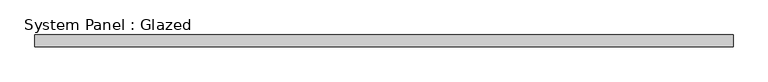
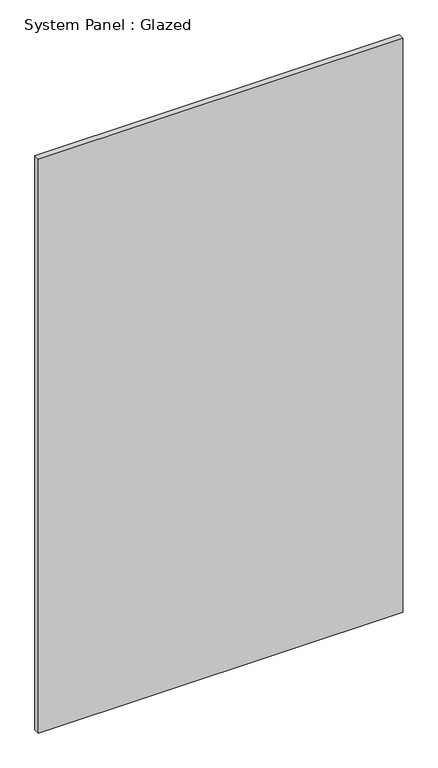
"""IFC4 building model written with IfcOpenShell, lengths in millimetres: plate geometry, System Panel : Glazed."""

import ifcopenshell
import ifcopenshell.guid

model = None  # the IFC model being written
_history = None  # IfcOwnerHistory: only IFC2X3 demands one
_inside = {}  # id of a spatial element -> (the spatial element, [elements in it])
_under = {}  # id of a project, library or spatial element -> (it, [spatial elements below it])
_declared = {}  # id of a project -> (the project, [libraries it declares])
_typed = {}  # id of a type object -> (the type object, [elements of that type])
_made_of = {}  # id of a material, layer set ... -> (it, [elements and type objects made of it])


def new_model(schema):
    """Start an empty IFC model of exactly this schema.

    Asked for "IFC4X3", IfcOpenShell would pick the latest addendum, in which some entities
    have other attributes; the version numbers below select the first issue.
    IFC2X3 requires an IfcOwnerHistory on every rooted entity: one is made here for all.
    """
    global model, _history
    if schema == "IFC4X3":
        model = ifcopenshell.file(schema_version=(4, 3, 0, 0))
    else:
        model = ifcopenshell.file(schema=schema)
    _inside.clear()
    _under.clear()
    _declared.clear()
    _typed.clear()
    _made_of.clear()
    _history = None
    if model.schema == "IFC2X3":
        org = make("IfcOrganization", Name="unknown")
        user = make(
            "IfcPersonAndOrganization",
            ThePerson=make("IfcPerson", FamilyName="unknown"),
            TheOrganization=org,
        )
        app = make(
            "IfcApplication",
            ApplicationDeveloper=org,
            Version="unknown",
            ApplicationFullName="unknown",
            ApplicationIdentifier="unknown",
        )
        _history = make(
            "IfcOwnerHistory",
            OwningUser=user,
            OwningApplication=app,
            ChangeAction="ADDED",
            CreationDate=0,
        )
    return model


def make(cls, **values):
    """One entity of the class cls with the attributes given. An attribute that is None is left unset."""
    return model.create_entity(
        cls, **{name: value for name, value in values.items() if value is not None}
    )


def rooted(cls, **values):
    """An entity with a GlobalId (a new one), such as an element, a storey or a relation."""
    return make(cls, GlobalId=ifcopenshell.guid.new(), OwnerHistory=_history, **values)


def si_unit(unit_type, name, prefix=None):
    """IfcSIUnit, for example si_unit("LENGTHUNIT", "METRE", prefix="MILLI")."""
    return make("IfcSIUnit", UnitType=unit_type, Prefix=prefix, Name=name)


def assignment(units):
    """IfcUnitAssignment: the units of a project."""
    return None if units is None else make("IfcUnitAssignment", Units=units)


def point(xyz):
    """IfcCartesianPoint."""
    return None if xyz is None else make("IfcCartesianPoint", Coordinates=xyz)


def direction(xyz):
    """IfcDirection."""
    return None if xyz is None else make("IfcDirection", DirectionRatios=xyz)


def frame(location, z_axis=None, x_axis=None):
    """IfcAxis2Placement3D, a coordinate frame: its origin and axes. An axis left out is left unset."""
    return make(
        "IfcAxis2Placement3D",
        Location=point(location),
        Axis=direction(z_axis),
        RefDirection=direction(x_axis),
    )


def origin():
    """The frame at (0, 0, 0) with its axes left unset."""
    return frame((0.0, 0.0, 0.0))


def origin_with_axes():
    """The frame at (0, 0, 0) with the z axis (0, 0, 1) and the x axis (1, 0, 0) written out."""
    return frame((0.0, 0.0, 0.0), z_axis=(0.0, 0.0, 1.0), x_axis=(1.0, 0.0, 0.0))


def place(relative_to, where):
    """IfcLocalPlacement: puts the frame where relative to a parent placement (None: the world)."""
    return make(
        "IfcLocalPlacement", PlacementRelTo=relative_to, RelativePlacement=where
    )


def context(
    kind, dimensions, precision=None, world=None, true_north=None, identifier=None
):
    """IfcGeometricRepresentationContext, for example the 3D "Model" context."""
    return make(
        "IfcGeometricRepresentationContext",
        ContextIdentifier=identifier,
        ContextType=kind,
        CoordinateSpaceDimension=dimensions,
        Precision=precision,
        WorldCoordinateSystem=world,
        TrueNorth=true_north,
    )


def project(units=None, contexts=None):
    """IfcProject with its units and contexts."""
    return rooted(
        "IfcProject",
        Name="project",
        RepresentationContexts=contexts,
        UnitsInContext=assignment(units),
    )


def spatial(cls, under=None, at=None, **own):
    """A site, building, storey or space (cls), placed at a placement, below another one or the project."""
    s = rooted(cls, ObjectPlacement=at, **own)
    if under is not None:
        _under.setdefault(under.id(), (under, []))[1].append(s)
    return s


def polyline(points):
    """IfcPolyline through the points."""
    return make("IfcPolyline", Points=[point(p) for p in points])


def outline(outer, holes=None, kind="AREA"):
    """IfcArbitraryClosedProfileDef: a profile drawn as a closed curve; with holes, ...WithVoids."""
    if holes is None:
        return make("IfcArbitraryClosedProfileDef", ProfileType=kind, OuterCurve=outer)
    return make(
        "IfcArbitraryProfileDefWithVoids",
        ProfileType=kind,
        OuterCurve=outer,
        InnerCurves=holes,
    )


def extrude(swept, where, along, depth):
    """IfcExtrudedAreaSolid: the profile swept, set in the frame where, extruded along a direction by depth."""
    return make(
        "IfcExtrudedAreaSolid",
        SweptArea=swept,
        Position=where,
        ExtrudedDirection=direction(along),
        Depth=depth,
    )


def shape(context_of_items, identifier, shape_type, items):
    """IfcShapeRepresentation: the items that make up one representation, for example the "Body"."""
    return make(
        "IfcShapeRepresentation",
        ContextOfItems=context_of_items,
        RepresentationIdentifier=identifier,
        RepresentationType=shape_type,
        Items=items,
    )


def source(mapping_origin, context_of_items, identifier, shape_type, items):
    """IfcRepresentationMap: a shape defined once, which mapped items show again and again."""
    return make(
        "IfcRepresentationMap",
        MappingOrigin=mapping_origin,
        MappedRepresentation=shape(context_of_items, identifier, shape_type, items),
    )


def transform(
    local_origin,
    x_axis=None,
    y_axis=None,
    z_axis=None,
    scale=None,
    scale2=None,
    scale3=None,
    uniform=True,
):
    """IfcCartesianTransformationOperator3D, or its non-uniform kind. x_axis, y_axis, z_axis: its Axis1, 2, 3."""
    if uniform:
        return make(
            "IfcCartesianTransformationOperator3D",
            Axis1=direction(x_axis),
            Axis2=direction(y_axis),
            LocalOrigin=point(local_origin),
            Scale=scale,
            Axis3=direction(z_axis),
        )
    return make(
        "IfcCartesianTransformationOperator3DnonUniform",
        Axis1=direction(x_axis),
        Axis2=direction(y_axis),
        LocalOrigin=point(local_origin),
        Scale=scale,
        Axis3=direction(z_axis),
        Scale2=scale2,
        Scale3=scale3,
    )


def mapped(mapping_source, mapping_target):
    """IfcMappedItem: shows the shape of a source again, moved by a transform."""
    return make(
        "IfcMappedItem", MappingSource=mapping_source, MappingTarget=mapping_target
    )


def made_of(thing, what):
    """Note that an element or type object is made of a material, layer set ...; save() writes the relation."""
    if what is not None:
        _made_of.setdefault(what.id(), (what, []))[1].append(thing)
    return thing


def element(
    cls,
    number,
    at=None,
    inside=None,
    cuts=None,
    type_object=None,
    material=None,
    context=None,
    identifier="Body",
    shape_type=None,
    held_by="IfcProductDefinitionShape",
    body=None,
    shapes=None,
    **own,
):
    """One element of the class cls, such as IfcWall. Its Tag is "e" and its number.

    at: its placement. inside: the storey or other place that contains it. cuts: it is an
    opening in that element (IfcRelVoidsElement). A single representation is given by context,
    identifier, shape_type and body (its items); several are given by shapes. held_by: the class
    of the entity that holds the representations. save() writes the other relations.
    """
    e = rooted(cls, Tag="e%d" % number, ObjectPlacement=at, **own)
    if body is not None:
        shapes = [shape(context, identifier, shape_type, body)]
    if shapes is not None:
        e.Representation = make(held_by, Representations=shapes)
    if inside is not None:
        _inside.setdefault(inside.id(), (inside, []))[1].append(e)
    if cuts is not None:
        rooted(
            "IfcRelVoidsElement", RelatingBuildingElement=cuts, RelatedOpeningElement=e
        )
    if type_object is not None:
        _typed.setdefault(type_object.id(), (type_object, []))[1].append(e)
    return made_of(e, material)


def aggregate(whole, parts):
    """IfcRelAggregates: a whole, such as a stair, and the parts it consists of."""
    return rooted("IfcRelAggregates", RelatingObject=whole, RelatedObjects=parts)


def save(model, path):
    """Write the relations noted so far, then the file.

    IfcRelAggregates (storeys below a building ...), IfcRelContainedInSpatialStructure (elements
    in a storey), IfcRelDefinesByType, IfcRelAssociatesMaterial and IfcRelDeclares: one each for
    every whole, place, type object, material and project.
    """
    for whole, parts in _under.values():
        aggregate(whole, parts)
    for where, things in _inside.values():
        rooted(
            "IfcRelContainedInSpatialStructure",
            RelatedElements=things,
            RelatingStructure=where,
        )
    for kind, things in _typed.values():
        rooted("IfcRelDefinesByType", RelatedObjects=things, RelatingType=kind)
    for what, things in _made_of.values():
        rooted("IfcRelAssociatesMaterial", RelatedObjects=things, RelatingMaterial=what)
    for by, libraries in _declared.values():
        rooted("IfcRelDeclares", RelatingContext=by, RelatedDefinitions=libraries)
    model.write(path)


def system_panel_glazed_9321428d(model_context):
    return source(origin(), model_context, "Body", "SweptSolid", [
        extrude(outline(polyline([(749.3, 19.05), (-749.3, 19.05), (-749.3, 44.45), (749.3, 44.45), (749.3, 19.05)])), origin_with_axes(), (0.0, 0.0, 1.0), 2495.55),
    ])


if __name__ == "__main__":
    model = new_model("IFC4")
    model_context = context("Model", 3, world=origin())
    ifc_project = project(units=[si_unit("LENGTHUNIT", "METRE", prefix="MILLI")], contexts=[model_context])
    site = spatial("IfcSite", under=ifc_project)
    building = spatial("IfcBuilding", under=site)
    placement = place(None, origin())
    system_panel_glazed_shape = system_panel_glazed_9321428d(model_context)
    element("IfcPlate", 1, ObjectType="System Panel : Glazed", at=placement, inside=building, context=model_context, shape_type="MappedRepresentation", body=[
        mapped(system_panel_glazed_shape, transform((0.0, 0.0, 0.0), x_axis=(1.0, 0.0, 0.0), y_axis=(0.0, 1.0, 0.0), z_axis=(0.0, 0.0, 1.0))),
    ])
    save(model, "model.ifc")
